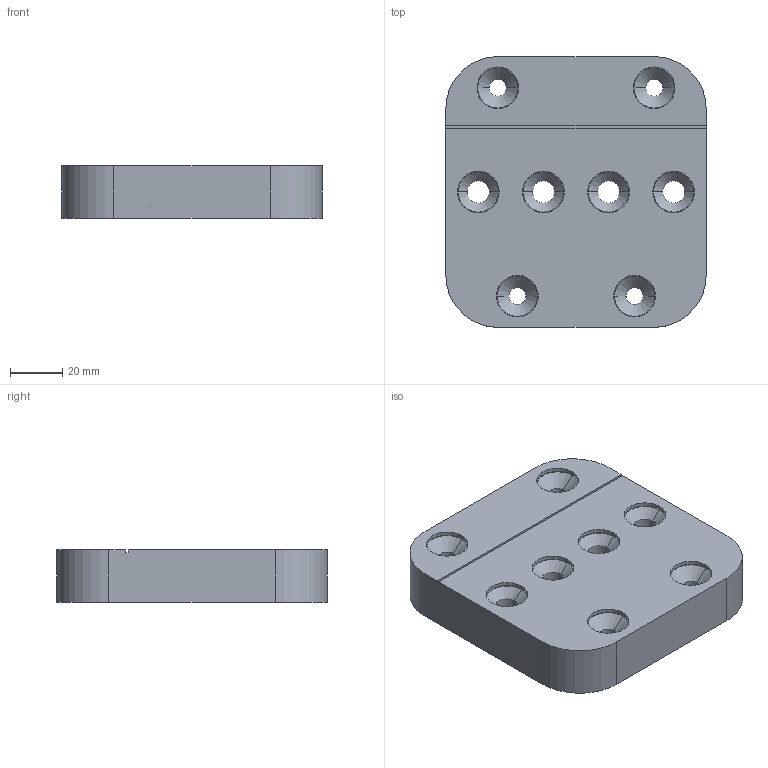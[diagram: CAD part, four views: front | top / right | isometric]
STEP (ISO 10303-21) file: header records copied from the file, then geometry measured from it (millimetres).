
FILE_DESCRIPTION (( 'STEP AP203' ), '1' );
FILE_NAME ('110100.STEP', '2021-02-11T14:34:48', ( '' ), ( '' ), 'SwSTEP 2.0', 'SolidWorks 2013', '' );
FILE_SCHEMA (( 'CONFIG_CONTROL_DESIGN' ));
Length unit declared in the file: millimetre
Products named in the file (1): 110100
Bounding box: 100 x 104 x 20 mm (x, y, z)
Volume: 189922.8 mm3; surface area: 30890.3 mm2
Topology: 1 solids, 1 shells, 70 faces, 164 edges, 104 vertices
Faces by surface type: cylinder 36, plane 18, cone 16
Entity records: 2139 total; most frequent: DIRECTION 394, CARTESIAN_POINT 339, ORIENTED_EDGE 328, EDGE_CURVE 164, AXIS2_PLACEMENT_3D 159, VERTEX_POINT 104, EDGE_LOOP 94, CIRCLE 88
